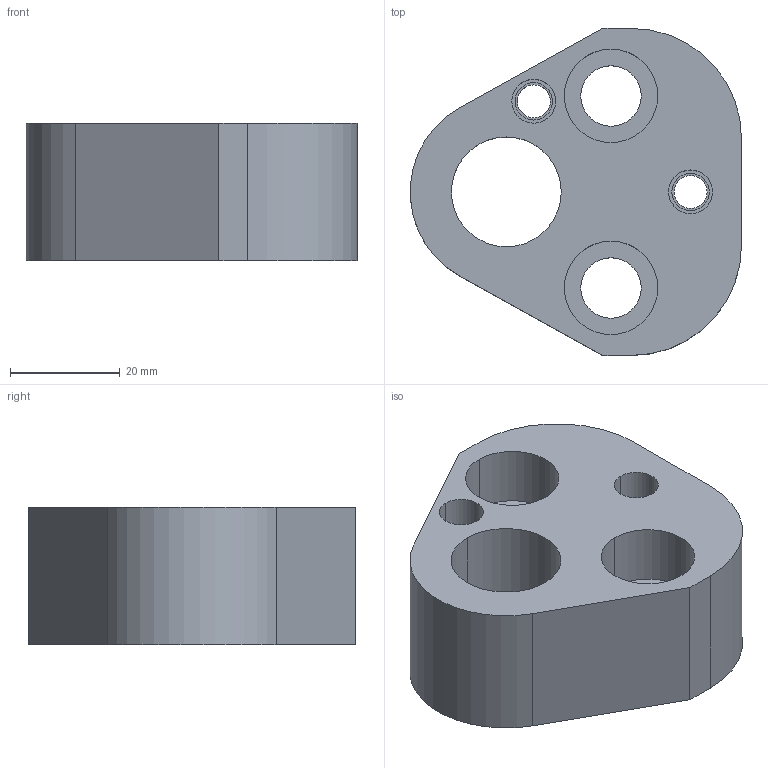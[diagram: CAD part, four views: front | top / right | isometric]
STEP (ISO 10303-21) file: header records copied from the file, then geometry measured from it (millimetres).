
FILE_DESCRIPTION(/* description */ (''),/* implementation_level */ '2;1');
FILE_NAME(/* name */ '3d_25crn-a20_03120_r00.stp',/* time_stamp */ '2011-01-10T14:17:55+09:00',/* author */ ('MISUMI'),/* organization */ (''),/* preprocessor_version */ 'ST-DEVELOPER v11',/* originating_system */ 'UGS - NX 5.0',/* authorisation */ '');
FILE_SCHEMA (('CONFIG_CONTROL_DESIGN'));
Length unit declared in the file: millimetre
Products named in the file (1): 3d_25crn-a20_03120_r00
Bounding box: 60.24 x 59.5 x 25 mm (x, y, z)
Volume: 49340.3 mm3; surface area: 13889.6 mm2
Topology: 1 solids, 1 shells, 43 faces, 100 edges, 66 vertices
Faces by surface type: cylinder 27, plane 14, cone 2
Entity records: 1360 total; most frequent: DIRECTION 244, CARTESIAN_POINT 210, ORIENTED_EDGE 200, EDGE_CURVE 100, AXIS2_PLACEMENT_3D 100, VERTEX_POINT 66, EDGE_LOOP 60, CIRCLE 56
